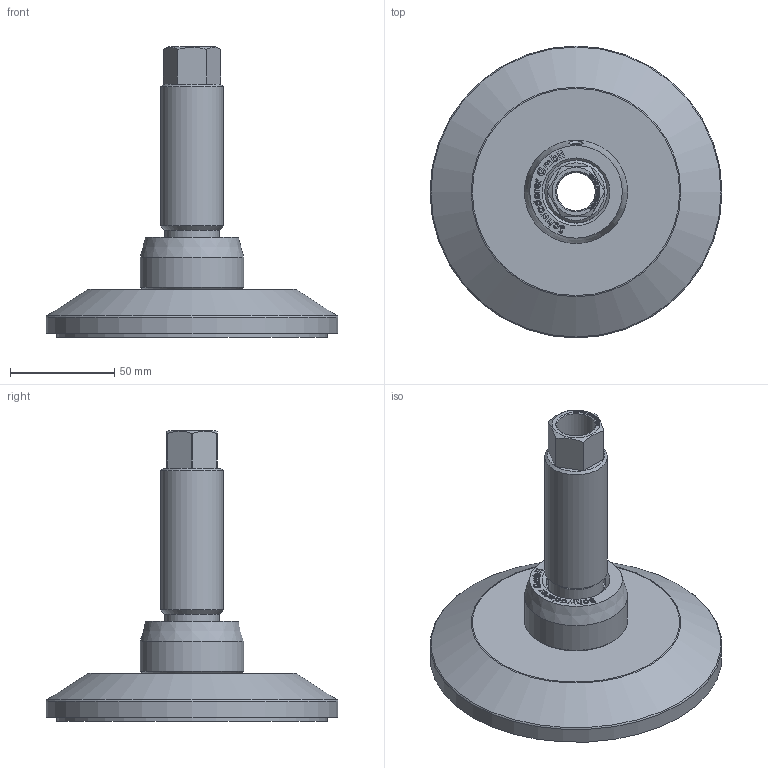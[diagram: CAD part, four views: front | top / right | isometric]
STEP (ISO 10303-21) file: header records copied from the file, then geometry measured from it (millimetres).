
FILE_DESCRIPTION(/* description */ ('JCM 130C - M30 - S6'),/* implementation_level */ '2;1');
FILE_NAME(/* name */ 'C:\Users\Public\Documents\Autodesk\Inventor LT 2016\Workspace\Fussplatte+Blechteller\JCMHD 130C - S6.stp',/* time_stamp */ '2017-01-10T11:14:43+01:00',/* author */ ('T. Rey'),/* organization */ ('Schwaderer GmbH Robert-Bosch-Str. 10 71563 Affalterbach'),/* preprocessor_version */ 'ST-DEVELOPER v16.1',/* originating_system */ 'Autodesk Inventor LT ',/* authorisation */ '');
FILE_SCHEMA (('CONFIG_CONTROL_DESIGN'));
Length unit declared in the file: millimetre
Products named in the file (1): JCM - M30
Bounding box: 140 x 140 x 139.4 mm (x, y, z)
Volume: 359996.5 mm3; surface area: 93345.1 mm2
Topology: 4 solids, 4 shells, 479 faces, 1260 edges, 829 vertices
Faces by surface type: plane 243, bspline 192, cylinder 23, cone 17, torus 3, sphere 1
Full cylindrical faces by diameter (mm): 5 x1, 18.5 x2, 25 x1, 26 x1, 26.5 x1, 27.5 x1, 28.5 x2, 30 x2, 31 x1, 49.5 x1, 130 x2, 140 x1
Entity records: 15628 total; most frequent: CARTESIAN_POINT 5181, ORIENTED_EDGE 2440, DIRECTION 1468, EDGE_CURVE 1220, VERTEX_POINT 824, LINE 750, VECTOR 750, EDGE_LOOP 564
